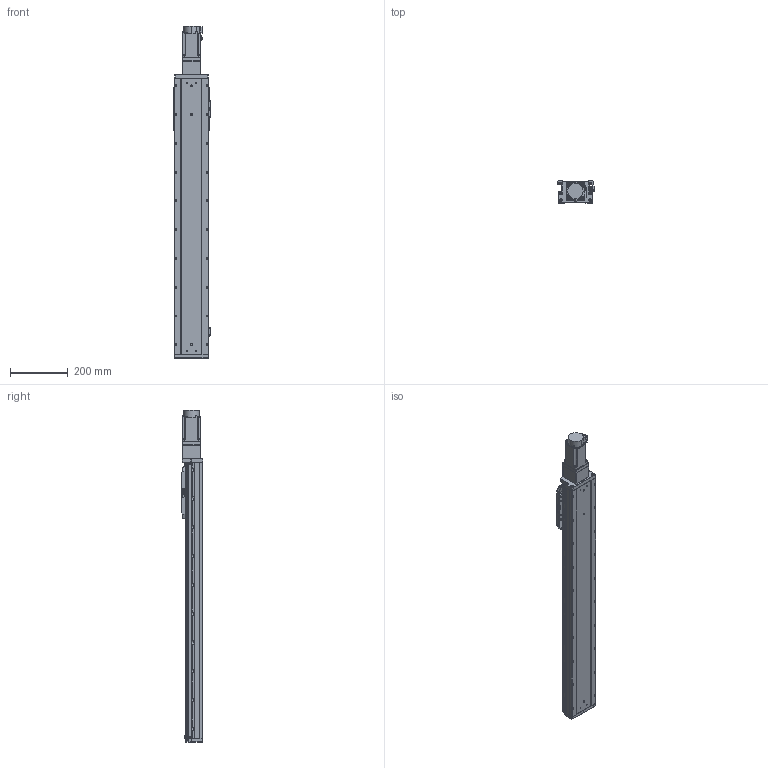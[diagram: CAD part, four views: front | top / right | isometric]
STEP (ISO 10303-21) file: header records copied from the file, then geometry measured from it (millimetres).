
FILE_DESCRIPTION (( 'STEP AP203' ), '1' );
FILE_NAME ('GTH12-750-BC-M40-C4.step', '2022-09-23T01:15:47', ( '微软用户' ), ( '微软中国' ), 'SwSTEP 2.0', 'SolidWorks 2020', '' );
FILE_SCHEMA (( 'CONFIG_CONTROL_DESIGN' ));
Length unit declared in the file: millimetre
Products named in the file (19): GTH120-003; GTH120-013; GTH50-024; hg-kn43j_-s100_; GTH12-750-BC-M40-C4; GTH120-006; GBT 70.1-M3℅6; GBT96.1-2002 3×0.8; GTH120-004; GBT 70.1-M5×16; BTH-M3X5X6; GBT 70.3-M3℅8; CTHA86-006-1_CTHA86-006-2; GTH80-022; CTHA86-013; GTH80-028; CTHA86-027; GTH120-001_750; GTH50-023
Assembly tree (62 placements, depth 2):
  GTH12-750-BC-M40-C4
    GTH120-001_750
    GTH120-003
    GTH120-006
    GTH120-004
    GTH120-013
    GBT 70.1-M3℅6  x14
    GBT 70.1-M5×16  x10
    GBT 70.3-M3℅8  x6
    GTH80-022
    GTH80-028  x2
    GTH50-023  x3
    GTH50-024  x3
    GBT96.1-2002 3×0.8  x6
    BTH-M3X5X6  x8
    CTHA86-006-1_CTHA86-006-2
    CTHA86-013
    CTHA86-027
    hg-kn43j_-s100_
Bounding box: 125.7 x 76 x 1153.7 mm (x, y, z)
Volume: 7334037.8 mm3; surface area: 656455.7 mm2
Topology: 64 solids, 64 shells, 2487 faces, 5774 edges, 3519 vertices
Faces by surface type: plane 1264, cylinder 710, cone 335, torus 170, sphere 8
Entity records: 45011 total; most frequent: DIRECTION 7532, CARTESIAN_POINT 7228, ORIENTED_EDGE 6930, EDGE_CURVE 3465, AXIS2_PLACEMENT_3D 2632, VECTOR 2268, LINE 2268, VERTEX_POINT 2178
